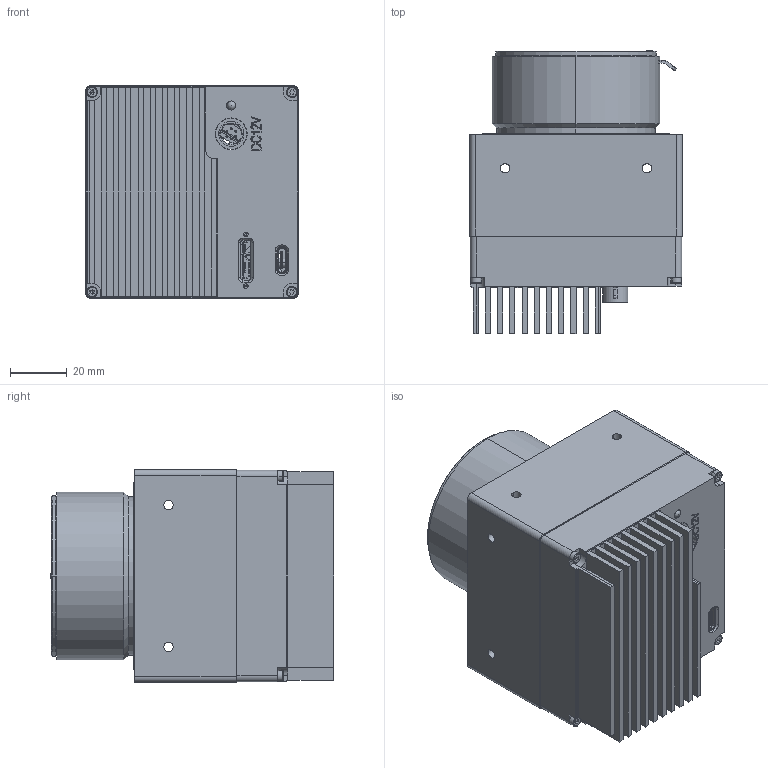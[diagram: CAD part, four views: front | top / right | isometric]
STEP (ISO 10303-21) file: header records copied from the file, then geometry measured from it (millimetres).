
FILE_DESCRIPTION (( 'STEP AP203' ), '1' );
FILE_NAME ('TS65MU30-5M-A01-V1.1.0-三维模型.STEP', '2021-06-02T02:48:47', ( '微软用户' ), ( '微软中国' ), 'SwSTEP 2.0', 'SolidWorks 2017', '' );
FILE_SCHEMA (( 'CONFIG_CONTROL_DESIGN' ));
Length unit declared in the file: millimetre
Products named in the file (1): TS65MU30-5M-A01-V1.1.0-三维模型
Bounding box: 75 x 99.85 x 75 mm (x, y, z)
Surface area: 70213.5 mm2 (no closed solid volume)
Topology: 0 solids, 71 shells, 571 faces, 2399 edges, 1877 vertices
Faces by surface type: plane 323, cylinder 178, cone 42, bspline 13, torus 8, sphere 7
Entity records: 25601 total; most frequent: CARTESIAN_POINT 6053, DIRECTION 4082, ORIENTED_EDGE 3388, EDGE_CURVE 2380, VERTEX_POINT 1869, LINE 1618, VECTOR 1618, AXIS2_PLACEMENT_3D 1232
